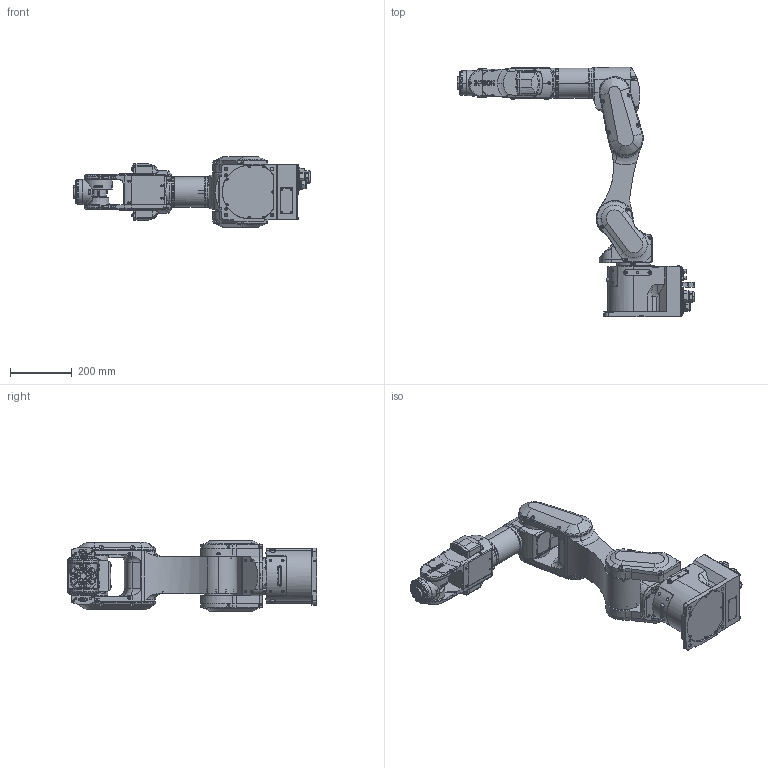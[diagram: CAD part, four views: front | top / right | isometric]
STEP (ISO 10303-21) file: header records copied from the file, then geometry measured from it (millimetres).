
FILE_DESCRIPTION (( 'STEP AP214' ), '1' );
FILE_NAME ('CX7-x901S.STEP', '2026-07-27T17:29:53', ( '' ), ( '' ), 'SwSTEP 2.0', 'SolidWorks 2020', '' );
FILE_SCHEMA (( 'AUTOMOTIVE_DESIGN' ));
Length unit declared in the file: millimetre
Products named in the file (8): CX7-A901S_J1; CX7-A901S_J6; CX7-A901S_J3; CX7-A901S_BASE; CX7-A901S_J4; CX7-x901S; CX7-A901S_J2; CX7-A901S_J5
Assembly tree (7 placements, depth 2):
  CX7-x901S
    CX7-A901S_BASE
    CX7-A901S_J1
    CX7-A901S_J2
    CX7-A901S_J3
    CX7-A901S_J4
    CX7-A901S_J5
    CX7-A901S_J6
Bounding box: 772 x 812 x 228 mm (x, y, z)
Volume: 8767022.2 mm3; surface area: 1212544.1 mm2
Topology: 4 solids, 9 shells, 4202 faces, 10405 edges, 6444 vertices
Faces by surface type: plane 1517, cylinder 1369, cone 811, torus 373, sphere 69, bspline 63
Entity records: 190843 total; most frequent: CARTESIAN_POINT 84005, ORIENTED_EDGE 20476, DIRECTION 13301, EDGE_CURVE 10247, B_SPLINE_CURVE_WITH_KNOTS 6976, VERTEX_POINT 6444, AXIS2_PLACEMENT_3D 5907, EDGE_LOOP 4613
